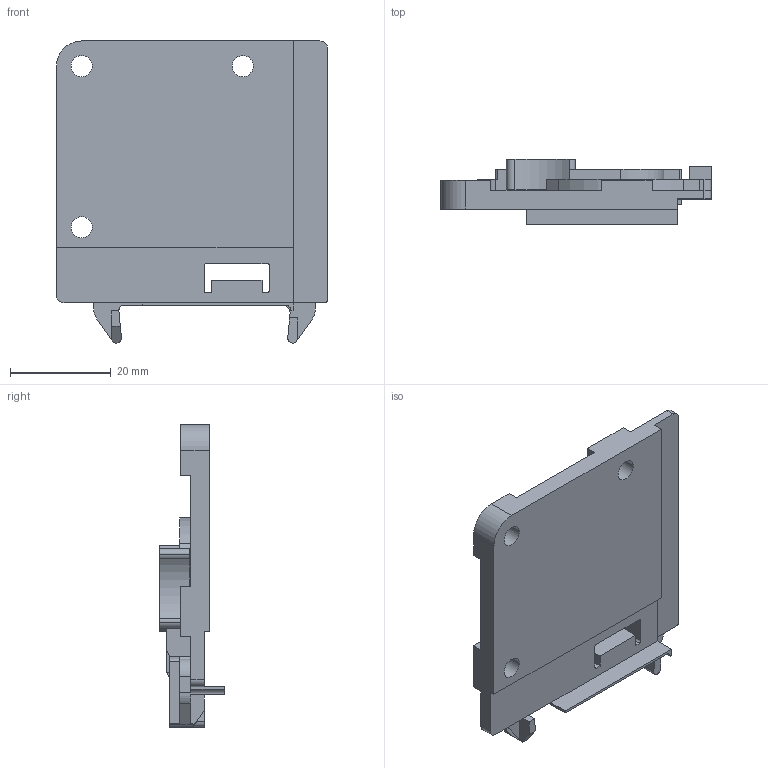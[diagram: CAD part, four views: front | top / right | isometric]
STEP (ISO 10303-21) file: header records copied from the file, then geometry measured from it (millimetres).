
FILE_DESCRIPTION (( 'STEP AP214' ), '1' );
FILE_NAME ('IMOS_Dynapro_Soft-close_Verstelladapter_rechts.step', '2012-02-01T09:06:48', ( 'Grass' ), ( '' ), 'SwSTEP 2.0', 'SolidWorks 2011', '' );
FILE_SCHEMA (( 'AUTOMOTIVE_DESIGN' ));
Length unit declared in the file: millimetre
Products named in the file (1): IMOS_Dynapro_Soft-close_Verstelladapter_rechts
Bounding box: 53.8 x 12.9 x 60 mm (x, y, z)
Volume: 13627.1 mm3; surface area: 8763.7 mm2
Topology: 1 solids, 1 shells, 154 faces, 441 edges, 289 vertices
Faces by surface type: plane 90, cylinder 58, cone 6
Entity records: 5087 total; most frequent: CARTESIAN_POINT 894, ORIENTED_EDGE 882, DIRECTION 876, EDGE_CURVE 441, VECTOR 310, LINE 310, VERTEX_POINT 289, AXIS2_PLACEMENT_3D 283
